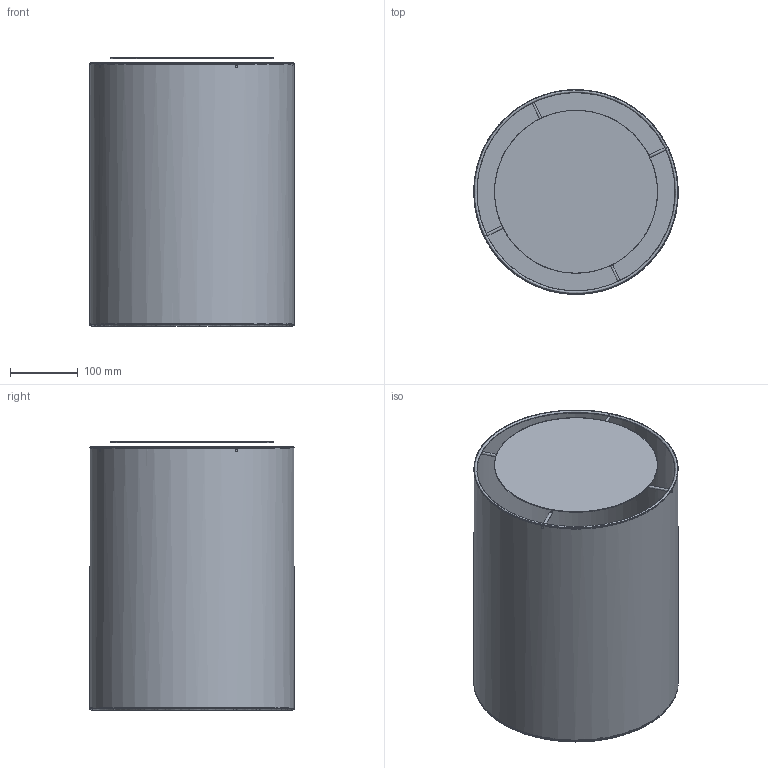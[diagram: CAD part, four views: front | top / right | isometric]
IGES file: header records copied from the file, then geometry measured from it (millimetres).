
Start section: SolidWorks IGES file using NURBS representation for surfaces
Global section: file name: Z:\Modele 3D_WWW\_KOLEKCJE WWW\CAMERON\CAMERON-9685\CAMERON-9685.IGS; native system: SolidWorks 2021; preprocessor: SolidWorks 2021; author: gabriela.tworek; date: 220324.134044; units: millimetre
Bounding box: 300.99 x 301 x 394.81 mm (x, y, z)
Surface area: 979832.2 mm2 (no closed solid volume)
Topology: 0 solids, 0 shells, 36 faces, 484 edges, 438 vertices
Faces by surface type: bspline 36
